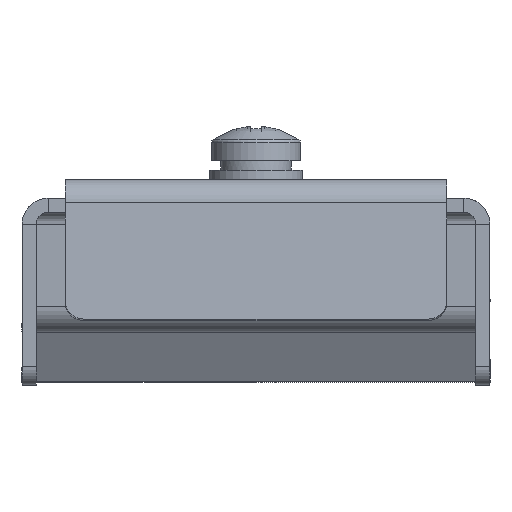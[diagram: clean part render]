
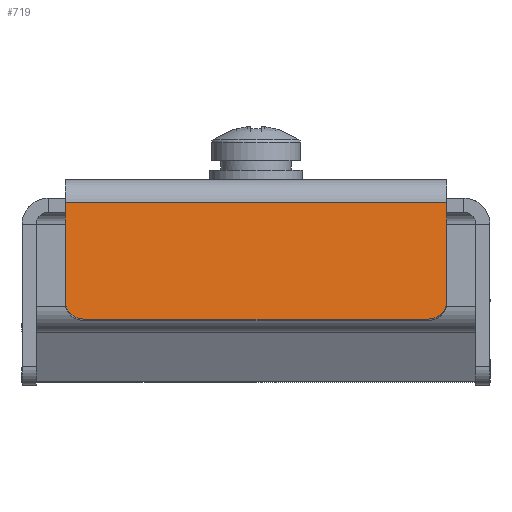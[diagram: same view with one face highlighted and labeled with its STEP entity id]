
A CAD part, left-side view. The second image highlights one B-rep face of the part: STEP entity #719.
In plain terms, the highlighted planar face has unit normal (-0.995, 0, 0.104) as drawn and (0, -0.995, 0.105) by its records, which use the part's own axes.
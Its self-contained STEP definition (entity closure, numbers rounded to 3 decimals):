
#719=ADVANCED_FACE('',(#3420),#3422,.T.);
#3420=FACE_BOUND('',#3421,.T.);
#3421=EDGE_LOOP('',(#5612,#5613,#5614,#5615,#5616,#5617));
#3422=PLANE('',#3423);
#3423=AXIS2_PLACEMENT_3D('',#3424,#3425,#3426);
#3424=CARTESIAN_POINT('',(0.,-16.534,17.552));
#3425=DIRECTION('',(0.,-0.995,0.105));
#3426=DIRECTION('',(-1.,0.,0.));
#5612=ORIENTED_EDGE('',*,*,#6403,.F.);
#5613=ORIENTED_EDGE('',*,*,#6404,.T.);
#5614=ORIENTED_EDGE('',*,*,#6405,.F.);
#5615=ORIENTED_EDGE('',*,*,#6406,.T.);
#5616=ORIENTED_EDGE('',*,*,#6393,.T.);
#5617=ORIENTED_EDGE('',*,*,#6407,.T.);
#6393=EDGE_CURVE('',#7498,#7499,#7500,.T.);
#6403=EDGE_CURVE('',#7514,#7515,#7516,.F.);
#6404=EDGE_CURVE('',#7514,#7517,#7518,.T.);
#6405=EDGE_CURVE('',#7519,#7517,#7520,.F.);
#6406=EDGE_CURVE('',#7519,#7498,#7521,.T.);
#6407=EDGE_CURVE('',#7499,#7515,#7522,.T.);
#7498=VERTEX_POINT('',#11351);
#7499=VERTEX_POINT('',#11352);
#7500=LINE('',#11353,#11354);
#7514=VERTEX_POINT('',#11391);
#7515=VERTEX_POINT('',#11392);
#7516=CIRCLE('',#11393,2.);
#7517=VERTEX_POINT('',#11397);
#7518=LINE('',#11398,#11399);
#7519=VERTEX_POINT('',#11401);
#7520=CIRCLE('',#11402,2.);
#7521=LINE('',#11406,#11407);
#7522=LINE('',#11409,#11410);
#11351=CARTESIAN_POINT('',(0.,-18.485,-1.007));
#11352=CARTESIAN_POINT('',(-40.8,-18.485,-1.007));
#11353=CARTESIAN_POINT('',(0.,-18.485,-1.007));
#11354=VECTOR('',#11355,1.);
#11355=DIRECTION('',(-1.,0.,0.));
#11391=CARTESIAN_POINT('',(-38.8,-19.789,-13.418));
#11392=CARTESIAN_POINT('',(-40.8,-19.58,-11.429));
#11393=AXIS2_PLACEMENT_3D('',#11394,#11395,#11396);
#11394=CARTESIAN_POINT('',(-38.8,-19.58,-11.429));
#11395=DIRECTION('',(0.,-0.995,0.105));
#11396=DIRECTION('',(-1.,0.,0.));
#11397=CARTESIAN_POINT('',(-2.,-19.789,-13.418));
#11398=CARTESIAN_POINT('',(-38.8,-19.789,-13.418));
#11399=VECTOR('',#11400,1.);
#11400=DIRECTION('',(1.,0.,0.));
#11401=CARTESIAN_POINT('',(0.,-19.58,-11.429));
#11402=AXIS2_PLACEMENT_3D('',#11403,#11404,#11405);
#11403=CARTESIAN_POINT('',(-2.,-19.58,-11.429));
#11404=DIRECTION('',(0.,-0.995,0.105));
#11405=DIRECTION('',(0.,-0.105,-0.995));
#11406=CARTESIAN_POINT('',(0.,-19.58,-11.429));
#11407=VECTOR('',#11408,1.);
#11408=DIRECTION('',(0.,0.105,0.995));
#11409=CARTESIAN_POINT('',(-40.8,-18.485,-1.007));
#11410=VECTOR('',#11411,1.);
#11411=DIRECTION('',(0.,-0.105,-0.995));
